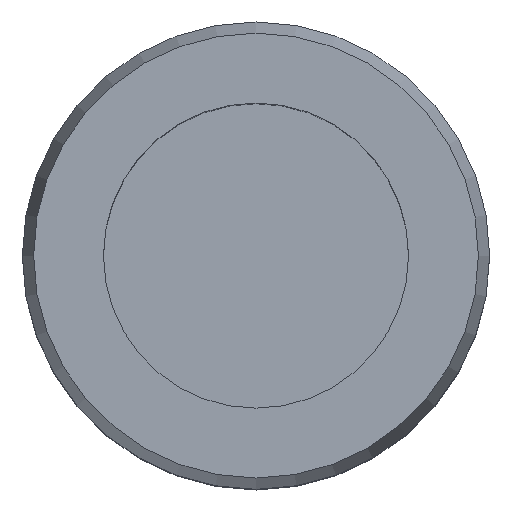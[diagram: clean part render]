
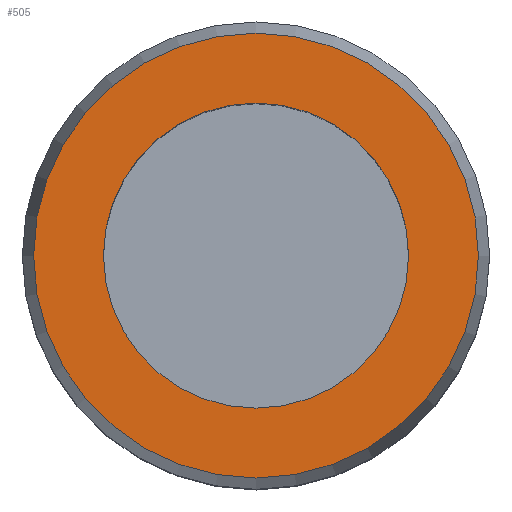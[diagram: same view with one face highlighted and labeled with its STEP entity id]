
A CAD part, top view. The second image highlights one B-rep face of the part: STEP entity #505.
In plain terms, the highlighted planar face has unit normal (0, 0, 1).
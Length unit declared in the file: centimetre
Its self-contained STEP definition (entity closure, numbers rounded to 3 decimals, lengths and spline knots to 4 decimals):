
#131=PLANE('',#567);
#188=VERTEX_POINT('',#1195);
#189=VERTEX_POINT('',#1198);
#224=CIRCLE('',#566,1.7479);
#225=CIRCLE('',#568,1.1989);
#278=EDGE_CURVE('',#188,#188,#224,.T.);
#279=EDGE_CURVE('',#189,#189,#225,.T.);
#384=ORIENTED_EDGE('',*,*,#279,.F.);
#385=ORIENTED_EDGE('',*,*,#278,.T.);
#428=EDGE_LOOP('',(#384));
#429=EDGE_LOOP('',(#385));
#472=FACE_BOUND('',#428,.T.);
#473=FACE_BOUND('',#429,.T.);
#505=ADVANCED_FACE('',(#472,#473),#131,.T.);
#566=AXIS2_PLACEMENT_3D('',#1194,#684,#685);
#567=AXIS2_PLACEMENT_3D('',#1196,#686,$);
#568=AXIS2_PLACEMENT_3D('',#1197,#687,#688);
#684=DIRECTION('',(0.,0.,1.));
#685=DIRECTION('',(0.,1.748,0.));
#686=DIRECTION('',(0.,0.,1.));
#687=DIRECTION('',(0.,0.,1.));
#688=DIRECTION('',(0.,1.199,0.));
#1194=CARTESIAN_POINT('',(0.,0.,0.));
#1195=CARTESIAN_POINT('',(0.,1.7479,0.));
#1196=CARTESIAN_POINT('',(0.,1.4734,0.));
#1197=CARTESIAN_POINT('',(0.,0.,0.));
#1198=CARTESIAN_POINT('',(0.,1.1989,0.));
